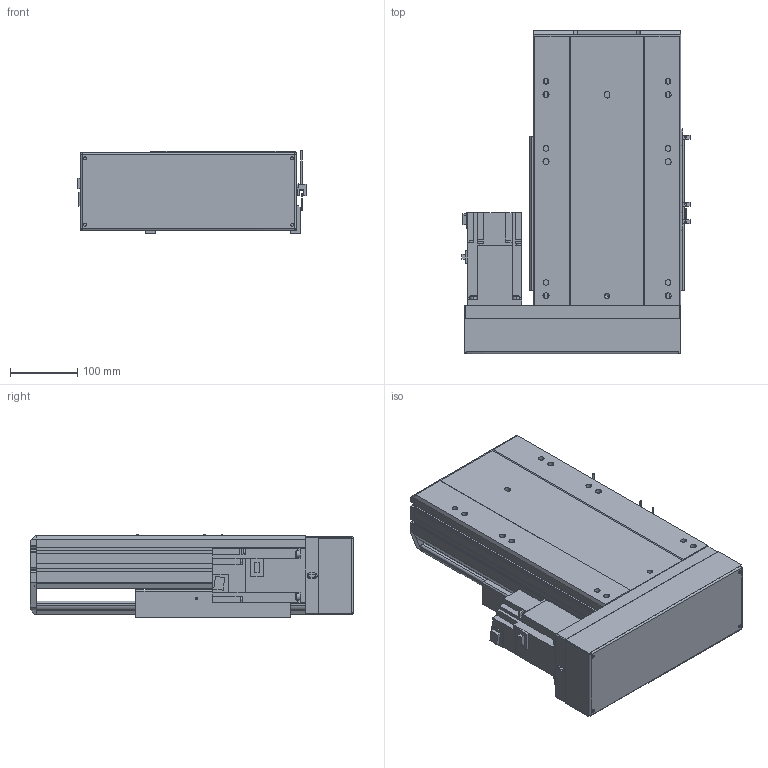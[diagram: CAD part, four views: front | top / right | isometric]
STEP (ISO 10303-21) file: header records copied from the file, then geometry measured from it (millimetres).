
FILE_DESCRIPTION (( 'STEP AP203' ), '1' );
FILE_NAME ('2.STEP', '2020-11-23T02:04:29', ( '' ), ( '' ), 'SwSTEP 2.0', 'SolidWorks 2016', '' );
FILE_SCHEMA (( 'CONFIG_CONTROL_DESIGN' ));
Length unit declared in the file: millimetre
Products named in the file (7): BTH22-BL-HZ; BTH22-BL-T75; BTH22-BL-04; BTH22-BL-01; BTH22-BL-菁釱; 2; BTH22-BL-02
Assembly tree (8 placements, depth 2):
  2
    BTH22-BL-菁釱
    BTH22-BL-01
    BTH22-BL-02
    BTH22-BL-04  x3
    BTH22-BL-HZ
    BTH22-BL-T75
Bounding box: 340 x 482 x 122.7 mm (x, y, z)
Volume: 7390664.8 mm3; surface area: 1111575 mm2
Topology: 11 solids, 11 shells, 986 faces, 2732 edges, 1775 vertices
Faces by surface type: plane 557, cylinder 379, cone 42, bspline 8
Entity records: 28781 total; most frequent: CARTESIAN_POINT 5648, ORIENTED_EDGE 4700, DIRECTION 4652, EDGE_CURVE 2350, VECTOR 1574, LINE 1574, VERTEX_POINT 1543, AXIS2_PLACEMENT_3D 1539
